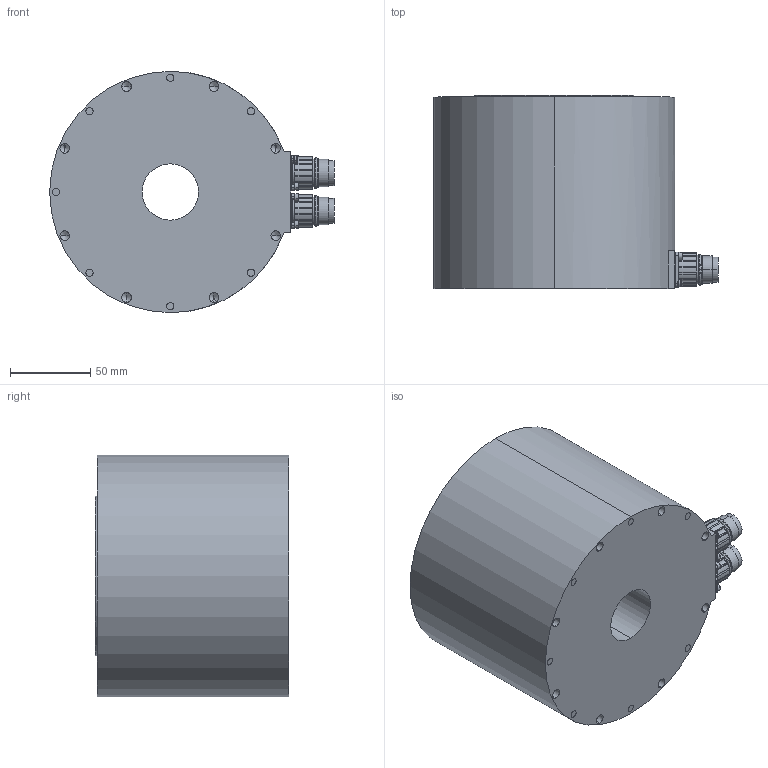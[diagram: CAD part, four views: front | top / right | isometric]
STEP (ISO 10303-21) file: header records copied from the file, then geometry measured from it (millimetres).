
FILE_DESCRIPTION (( 'STEP AP203' ), '1' );
FILE_NAME ('TMS14-A00.STEP', '2010-11-24T08:16:53', ( 'christian' ), ( 'Hewlett-Packard Company' ), 'SwSTEP 2.0', 'SolidWorks 2010', '' );
FILE_SCHEMA (( 'CONFIG_CONTROL_DESIGN' ));
Length unit declared in the file: millimetre
Products named in the file (6): Socket Head Cap Screw_DIN_DIN 912 M2.5 x 10 --- 10C; 1; Socket Head Cap Screw_DIN_DIN 912 M5 x 25 --- 25C; TMS14-A00; TMS16; 囝用零件接頭_Standard2
Assembly tree (31 placements, depth 2):
  TMS14-A00
    Socket Head Cap Screw_DIN_DIN 912 M5 x 25 --- 25C  x12
    Socket Head Cap Screw_DIN_DIN 912 M2.5 x 10 --- 10C  x9
    囝用零件接頭_Standard2  x2
    1  x7
    TMS16
Bounding box: 177 x 120 x 150 mm (x, y, z)
Volume: 1992217 mm3; surface area: 132302.6 mm2
Topology: 29 solids, 33 shells, 1297 faces, 3066 edges, 1813 vertices
Faces by surface type: plane 421, cylinder 416, cone 226, torus 138, bspline 96
Entity records: 24195 total; most frequent: CARTESIAN_POINT 10659, DIRECTION 2725, ORIENTED_EDGE 2389, EDGE_CURVE 1230, AXIS2_PLACEMENT_3D 1131, VERTEX_POINT 779, CIRCLE 616, EDGE_LOOP 614
